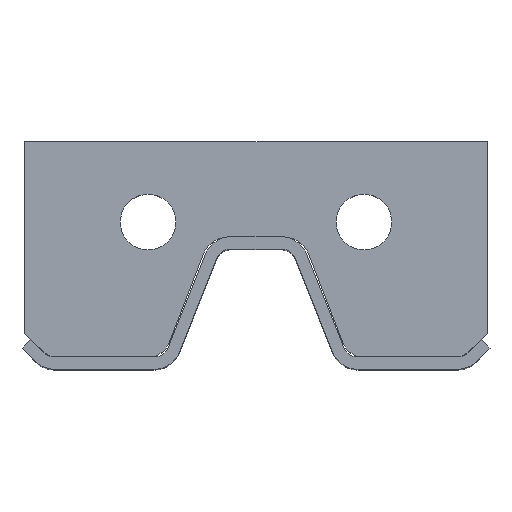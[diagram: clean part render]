
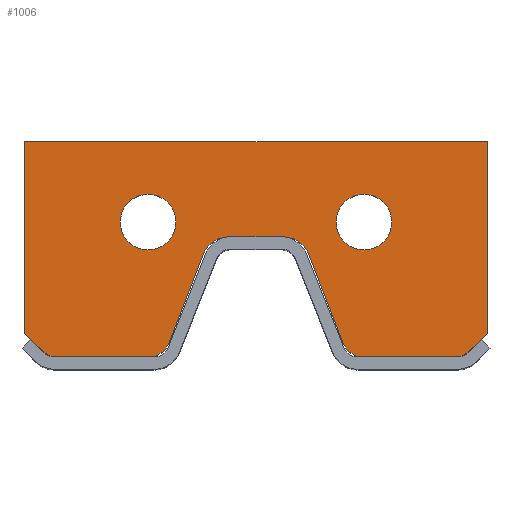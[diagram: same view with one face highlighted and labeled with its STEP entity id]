
A CAD part, top view. The second image highlights one B-rep face of the part: STEP entity #1006.
In plain terms, the highlighted planar face has unit normal (0, 0, 1).
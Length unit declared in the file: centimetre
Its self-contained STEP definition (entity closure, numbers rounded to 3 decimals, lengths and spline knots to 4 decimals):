
#42=FACE_BOUND('',#109,.T.);
#43=FACE_BOUND('',#110,.T.);
#54=FACE_OUTER_BOUND('',#108,.T.);
#108=EDGE_LOOP('',(#676,#677,#678,#679,#680,#681,#682,#683,#684,#685,#686,
#687,#688,#689,#690,#691));
#109=EDGE_LOOP('',(#692));
#110=EDGE_LOOP('',(#693));
#174=CIRCLE('',#1064,0.8);
#175=CIRCLE('',#1065,0.8);
#176=CIRCLE('',#1066,0.8);
#177=CIRCLE('',#1067,0.8);
#178=CIRCLE('',#1068,0.8);
#179=CIRCLE('',#1069,0.8);
#180=CIRCLE('',#1070,0.9);
#181=CIRCLE('',#1071,0.9);
#222=LINE('',#1477,#324);
#223=LINE('',#1479,#325);
#224=LINE('',#1481,#326);
#225=LINE('',#1485,#327);
#226=LINE('',#1489,#328);
#227=LINE('',#1493,#329);
#228=LINE('',#1497,#330);
#229=LINE('',#1501,#331);
#230=LINE('',#1505,#332);
#231=LINE('',#1506,#333);
#324=VECTOR('',#1169,0.1);
#325=VECTOR('',#1170,0.1);
#326=VECTOR('',#1171,0.1);
#327=VECTOR('',#1174,0.1);
#328=VECTOR('',#1177,0.1);
#329=VECTOR('',#1180,0.1);
#330=VECTOR('',#1183,0.1);
#331=VECTOR('',#1186,0.1);
#332=VECTOR('',#1189,0.1);
#333=VECTOR('',#1190,0.1);
#426=VERTEX_POINT('',#1475);
#427=VERTEX_POINT('',#1476);
#428=VERTEX_POINT('',#1478);
#429=VERTEX_POINT('',#1480);
#430=VERTEX_POINT('',#1482);
#431=VERTEX_POINT('',#1484);
#432=VERTEX_POINT('',#1486);
#433=VERTEX_POINT('',#1488);
#434=VERTEX_POINT('',#1490);
#435=VERTEX_POINT('',#1492);
#436=VERTEX_POINT('',#1494);
#437=VERTEX_POINT('',#1496);
#438=VERTEX_POINT('',#1498);
#439=VERTEX_POINT('',#1500);
#440=VERTEX_POINT('',#1502);
#441=VERTEX_POINT('',#1504);
#442=VERTEX_POINT('',#1507);
#443=VERTEX_POINT('',#1509);
#526=EDGE_CURVE('',#426,#427,#222,.T.);
#527=EDGE_CURVE('',#427,#428,#223,.T.);
#528=EDGE_CURVE('',#428,#429,#224,.T.);
#529=EDGE_CURVE('',#429,#430,#174,.T.);
#530=EDGE_CURVE('',#430,#431,#225,.T.);
#531=EDGE_CURVE('',#431,#432,#175,.T.);
#532=EDGE_CURVE('',#432,#433,#226,.T.);
#533=EDGE_CURVE('',#433,#434,#176,.T.);
#534=EDGE_CURVE('',#434,#435,#227,.T.);
#535=EDGE_CURVE('',#435,#436,#177,.T.);
#536=EDGE_CURVE('',#436,#437,#228,.T.);
#537=EDGE_CURVE('',#437,#438,#178,.T.);
#538=EDGE_CURVE('',#438,#439,#229,.T.);
#539=EDGE_CURVE('',#439,#440,#179,.T.);
#540=EDGE_CURVE('',#440,#441,#230,.T.);
#541=EDGE_CURVE('',#441,#426,#231,.T.);
#542=EDGE_CURVE('',#442,#442,#180,.T.);
#543=EDGE_CURVE('',#443,#443,#181,.T.);
#676=ORIENTED_EDGE('',*,*,#526,.T.);
#677=ORIENTED_EDGE('',*,*,#527,.T.);
#678=ORIENTED_EDGE('',*,*,#528,.T.);
#679=ORIENTED_EDGE('',*,*,#529,.T.);
#680=ORIENTED_EDGE('',*,*,#530,.T.);
#681=ORIENTED_EDGE('',*,*,#531,.T.);
#682=ORIENTED_EDGE('',*,*,#532,.T.);
#683=ORIENTED_EDGE('',*,*,#533,.T.);
#684=ORIENTED_EDGE('',*,*,#534,.T.);
#685=ORIENTED_EDGE('',*,*,#535,.T.);
#686=ORIENTED_EDGE('',*,*,#536,.T.);
#687=ORIENTED_EDGE('',*,*,#537,.T.);
#688=ORIENTED_EDGE('',*,*,#538,.T.);
#689=ORIENTED_EDGE('',*,*,#539,.T.);
#690=ORIENTED_EDGE('',*,*,#540,.T.);
#691=ORIENTED_EDGE('',*,*,#541,.T.);
#692=ORIENTED_EDGE('',*,*,#542,.T.);
#693=ORIENTED_EDGE('',*,*,#543,.T.);
#976=PLANE('',#1063);
#1006=ADVANCED_FACE('',(#54,#42,#43),#976,.T.);
#1063=AXIS2_PLACEMENT_3D('',#1474,#1167,#1168);
#1064=AXIS2_PLACEMENT_3D('',#1483,#1172,#1173);
#1065=AXIS2_PLACEMENT_3D('',#1487,#1175,#1176);
#1066=AXIS2_PLACEMENT_3D('',#1491,#1178,#1179);
#1067=AXIS2_PLACEMENT_3D('',#1495,#1181,#1182);
#1068=AXIS2_PLACEMENT_3D('',#1499,#1184,#1185);
#1069=AXIS2_PLACEMENT_3D('',#1503,#1187,#1188);
#1070=AXIS2_PLACEMENT_3D('',#1508,#1191,#1192);
#1071=AXIS2_PLACEMENT_3D('',#1510,#1193,#1194);
#1167=DIRECTION('center_axis',(0.,0.,1.));
#1168=DIRECTION('ref_axis',(1.,0.,0.));
#1169=DIRECTION('',(-1.,0.,0.));
#1170=DIRECTION('',(0.,-1.,0.));
#1171=DIRECTION('',(0.707,-0.707,0.));
#1172=DIRECTION('center_axis',(0.,0.,1.));
#1173=DIRECTION('ref_axis',(-0.707,-0.707,0.));
#1174=DIRECTION('',(1.,0.,0.));
#1175=DIRECTION('center_axis',(0.,0.,1.));
#1176=DIRECTION('ref_axis',(0.,-1.,0.));
#1177=DIRECTION('',(0.359,0.933,0.));
#1178=DIRECTION('center_axis',(0.,0.,-1.));
#1179=DIRECTION('ref_axis',(-0.933,0.359,0.));
#1180=DIRECTION('',(1.,0.,0.));
#1181=DIRECTION('center_axis',(0.,0.,-1.));
#1182=DIRECTION('ref_axis',(0.,1.,0.));
#1183=DIRECTION('',(0.359,-0.933,0.));
#1184=DIRECTION('center_axis',(0.,0.,1.));
#1185=DIRECTION('ref_axis',(-0.933,-0.359,0.));
#1186=DIRECTION('',(1.,0.,0.));
#1187=DIRECTION('center_axis',(0.,0.,1.));
#1188=DIRECTION('ref_axis',(0.,-1.,0.));
#1189=DIRECTION('',(0.707,0.707,0.));
#1190=DIRECTION('',(0.,1.,0.));
#1191=DIRECTION('center_axis',(0.,0.,-1.));
#1192=DIRECTION('ref_axis',(1.,0.,0.));
#1193=DIRECTION('center_axis',(0.,0.,-1.));
#1194=DIRECTION('ref_axis',(1.,0.,0.));
#1474=CARTESIAN_POINT('Origin',(64.0042,159.8304,0.2));
#1475=CARTESIAN_POINT('',(71.5042,163.0396,0.2));
#1476=CARTESIAN_POINT('',(56.5042,163.0396,0.2));
#1477=CARTESIAN_POINT('',(71.5042,163.0396,0.2));
#1478=CARTESIAN_POINT('',(56.5042,156.8396,0.2));
#1479=CARTESIAN_POINT('',(56.5042,163.0396,0.2));
#1480=CARTESIAN_POINT('',(57.0699,156.2739,0.2));
#1481=CARTESIAN_POINT('',(56.5042,156.8396,0.2));
#1482=CARTESIAN_POINT('',(57.6356,156.0396,0.2));
#1483=CARTESIAN_POINT('Origin',(57.6356,156.8396,0.2));
#1484=CARTESIAN_POINT('',(60.4548,156.0396,0.2));
#1485=CARTESIAN_POINT('',(57.6356,156.0396,0.2));
#1486=CARTESIAN_POINT('',(61.2015,156.5524,0.2));
#1487=CARTESIAN_POINT('Origin',(60.4548,156.8396,0.2));
#1488=CARTESIAN_POINT('',(62.307,159.4268,0.2));
#1489=CARTESIAN_POINT('',(61.2015,156.5524,0.2));
#1490=CARTESIAN_POINT('',(63.0537,159.9396,0.2));
#1491=CARTESIAN_POINT('Origin',(63.0537,159.1396,0.2));
#1492=CARTESIAN_POINT('',(64.9548,159.9396,0.2));
#1493=CARTESIAN_POINT('',(63.0537,159.9396,0.2));
#1494=CARTESIAN_POINT('',(65.7015,159.4268,0.2));
#1495=CARTESIAN_POINT('Origin',(64.9548,159.1396,0.2));
#1496=CARTESIAN_POINT('',(66.807,156.5524,0.2));
#1497=CARTESIAN_POINT('',(65.7015,159.4268,0.2));
#1498=CARTESIAN_POINT('',(67.5537,156.0396,0.2));
#1499=CARTESIAN_POINT('Origin',(67.5537,156.8396,0.2));
#1500=CARTESIAN_POINT('',(70.3729,156.0396,0.2));
#1501=CARTESIAN_POINT('',(67.5537,156.0396,0.2));
#1502=CARTESIAN_POINT('',(70.9386,156.2739,0.2));
#1503=CARTESIAN_POINT('Origin',(70.3729,156.8396,0.2));
#1504=CARTESIAN_POINT('',(71.5042,156.8396,0.2));
#1505=CARTESIAN_POINT('',(70.9386,156.2739,0.2));
#1506=CARTESIAN_POINT('',(71.5042,156.8396,0.2));
#1507=CARTESIAN_POINT('',(59.6042,160.4396,0.2));
#1508=CARTESIAN_POINT('Origin',(60.5042,160.4396,0.2));
#1509=CARTESIAN_POINT('',(66.6042,160.4396,0.2));
#1510=CARTESIAN_POINT('Origin',(67.5042,160.4396,0.2));
